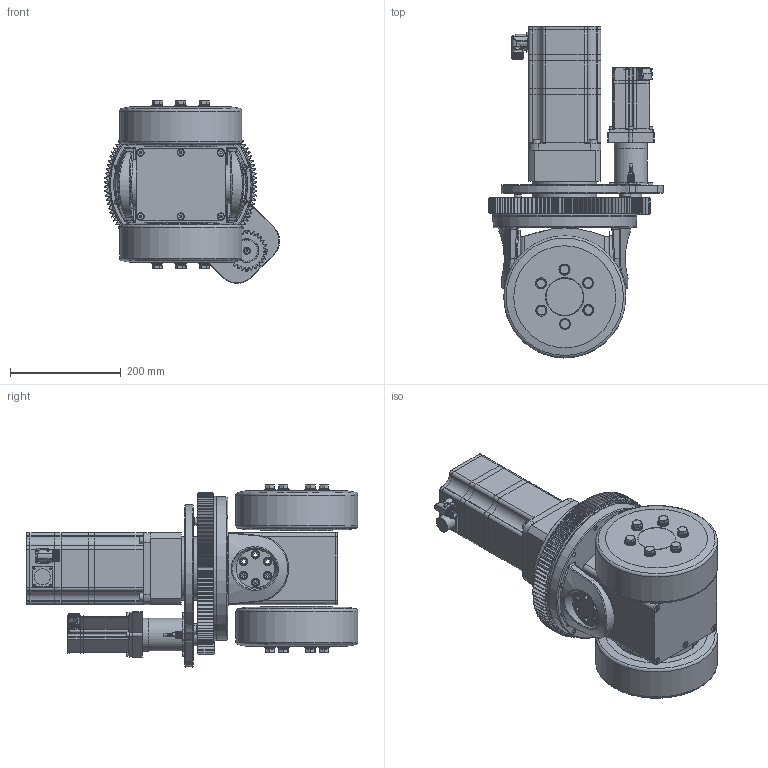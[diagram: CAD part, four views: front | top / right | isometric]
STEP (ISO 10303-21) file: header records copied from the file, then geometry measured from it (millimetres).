
FILE_DESCRIPTION (( 'STEP AP214' ), '1' );
FILE_NAME ('2019-5-5立固定式舵轮总成.STEP', '2019-05-08T14:07:03', ( '' ), ( '' ), 'SwSTEP 2.0', 'SolidWorks 2016', '' );
FILE_SCHEMA (( 'AUTOMOTIVE_DESIGN' ));
Length unit declared in the file: millimetre
Products named in the file (1): 2019-5-5立固定式舵轮总成
Bounding box: 315.57 x 598.7 x 329.28 mm (x, y, z)
Surface area: 1001635.1 mm2 (no closed solid volume)
Topology: 0 solids, 201 shells, 2005 faces, 6675 edges, 4665 vertices
Faces by surface type: cylinder 858, plane 646, cone 404, torus 51, bspline 44, sphere 2
Full cylindrical faces by diameter (mm): 2.6 x3, 3 x4, 4.5 x10, 4.7 x5, 5 x2, 5.1 x2, 5.5 x6, 8.5 x28, 9.43 x1, 10 x2, 11.34 x6, 13 x10, 15 x23, 15.8 x1, 16.1 x12, 19.3 x1, 19.5 x1, 19.8 x6, 20 x12, 20.8 x8, 22 x1, 29 x1, 38 x1, 40 x1, 42 x1, 59.8 x1, 60 x2, 68 x3, 70 x2, 90 x1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
Entity records: 112218 total; most frequent: CARTESIAN_POINT 34725, DIRECTION 11818, ORIENTED_EDGE 9975, EDGE_CURVE 6296, AXIS2_PLACEMENT_3D 4650, VERTEX_POINT 4591, CIRCLE 2688, EDGE_LOOP 2592
